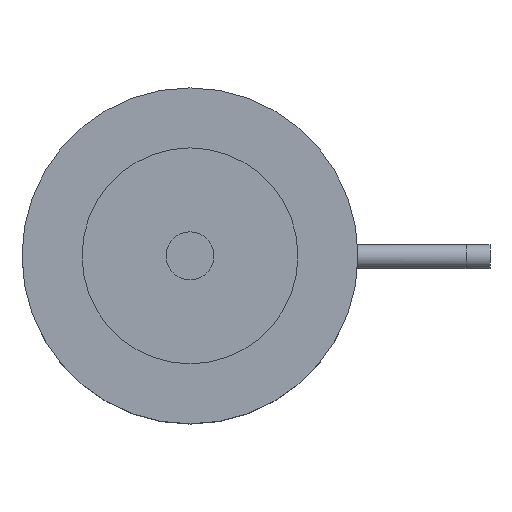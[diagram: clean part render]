
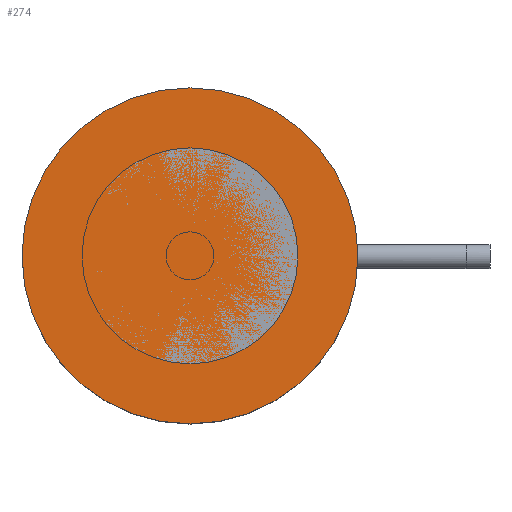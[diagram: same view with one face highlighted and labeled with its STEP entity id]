
A CAD part, top view. The second image highlights one B-rep face of the part: STEP entity #274.
In plain terms, the highlighted planar face has unit normal (0, 0, 1).
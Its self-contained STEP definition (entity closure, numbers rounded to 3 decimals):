
#274=ADVANCED_FACE('',(#395),#359,.F.);
#359=PLANE('',#1332);
#395=FACE_OUTER_BOUND('',#539,.T.);
#539=EDGE_LOOP('',(#675));
#675=ORIENTED_EDGE('',*,*,#1093,.F.);
#975=VERTEX_POINT('',#1896);
#1093=EDGE_CURVE('',#975,#975,#1244,.T.);
#1244=CIRCLE('',#1331,14.);
#1331=AXIS2_PLACEMENT_3D('',#1895,#1512,#1513);
#1332=AXIS2_PLACEMENT_3D('',#1897,#1514,#1515);
#1512=DIRECTION('',(0.,0.,-1.));
#1513=DIRECTION('',(-1.,0.,0.));
#1514=DIRECTION('',(0.,0.,-1.));
#1515=DIRECTION('',(-1.,0.,0.));
#1895=CARTESIAN_POINT('',(0.,0.,0.));
#1896=CARTESIAN_POINT('',(-14.,0.,0.));
#1897=CARTESIAN_POINT('',(0.,0.,0.));
